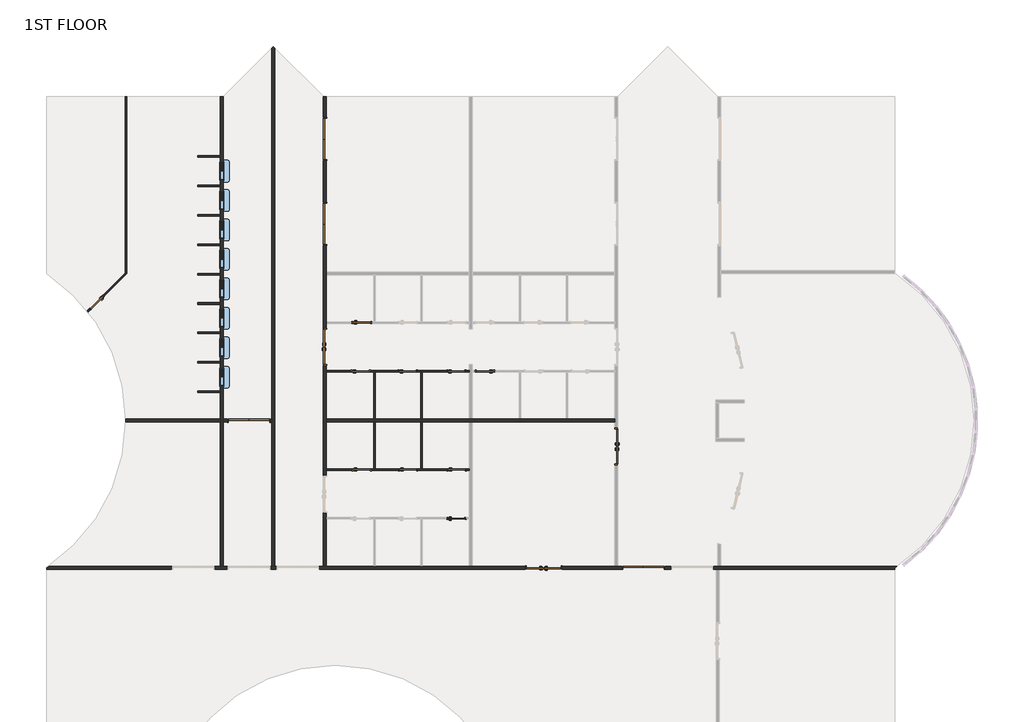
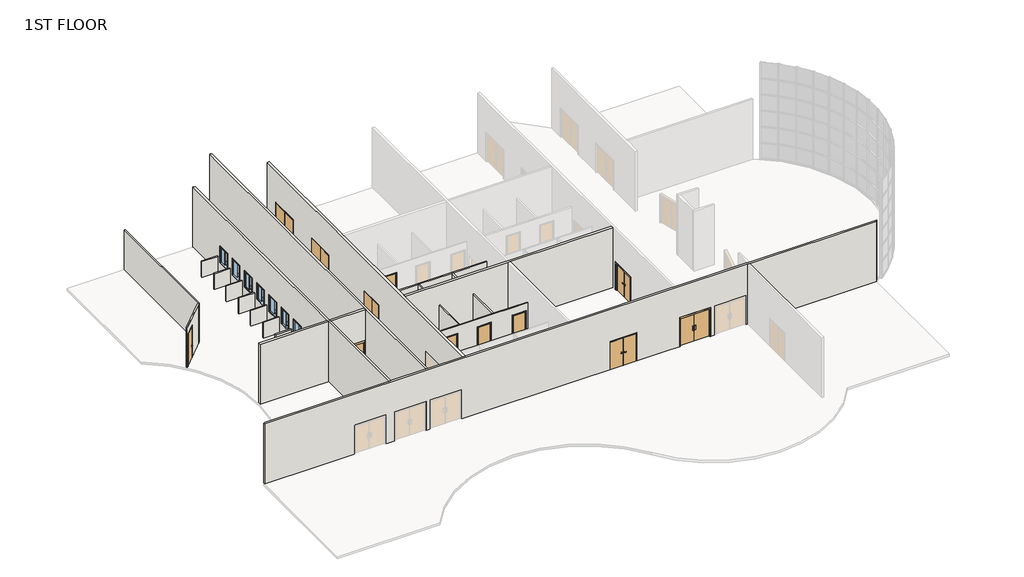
# One storey, part 2 of 17: 23 walls, 17 doors, 8 windows.
"""IFC4 building model written with IfcOpenShell, lengths in millimetres."""

from ifc_helpers import new_model, si_unit, point, frame, frame_2d, origin, place, context, project, spatial, polyline, circle_curve, trimmed, segment, composite_curve, outline, extrude, faceted_brep, transform, mapped, element, save
from ifc_brep_helpers import plane_surface, cylinder_surface, revolved_surface, advanced_brep
from components import door_2f250f70, door_b3a27a16, door_979b1b8c, door_f8b587be, pass_thru_4x3_19d81059

model = new_model("IFC4")

# Units and contexts
model_context = context("Model", 3, world=origin())
ifc_project = project(units=[si_unit("LENGTHUNIT", "METRE", prefix="MILLI")], contexts=[model_context])

# Site, building, storey
site = spatial("IfcSite", under=ifc_project)
building = spatial("IfcBuilding", under=site)
storey = spatial("IfcBuildingStorey", under=building, Name="1ST FLOOR", Elevation=4572.0)

# Doors
placement = place(None, origin())
door_shape = door_2f250f70(model_context)
element("IfcDoor", 1, ObjectType="Door-Passage-Double-Flush : 72\" x 82\"", at=placement, inside=storey, context=model_context, shape_type="MappedRepresentation", body=[
    mapped(door_shape, transform((14556.3400257, 20729.575, 4572.0), x_axis=(0.0, 1.0, 0.0), y_axis=(-1.0, 0.0, 0.0), z_axis=(0.0, 0.0, 1.0))),
])
element("IfcDoor", 2, ObjectType="Door-Passage-Double-Flush : 72\" x 82\"", at=placement, inside=storey, context=model_context, shape_type="MappedRepresentation", body=[
    mapped(door_shape, transform((25872.8337757, 9305.925, 4572.0), x_axis=(-1.0, 0.0, 0.0), y_axis=(0.0, -1.0, 0.0), z_axis=(0.0, 0.0, 1.0))),
])
element("IfcDoor", 3, ObjectType="Door-Passage-Double-Flush : 72\" x 82\"", at=placement, inside=storey, context=model_context, shape_type="MappedRepresentation", body=[
    mapped(door_shape, transform((29628.0650257, 15571.7875, 4572.0), x_axis=(0.0, -1.0, 0.0), y_axis=(1.0, 0.0, 0.0), z_axis=(0.0, 0.0, 1.0))),
])
door_2_shape = door_b3a27a16(model_context)
element("IfcDoor", 4, ObjectType="Door-Passage-Double-Flush-Dbl_Acting : 84\" x 84\"", at=placement, inside=storey, context=model_context, shape_type="MappedRepresentation", body=[
    mapped(door_2_shape, transform((31033.0025257, 9293.225, 4572.0), x_axis=(1.0, 0.0, 0.0), y_axis=(0.0, 1.0, 0.0), z_axis=(0.0, 0.0, 1.0))),
])
element("IfcDoor", 5, ObjectType="Door-Passage-Double-Flush-Dbl_Acting : 84\" x 84\"", at=placement, inside=storey, context=model_context, shape_type="MappedRepresentation", body=[
    mapped(door_2_shape, transform((14556.3400257, 31499.175, 4572.0), x_axis=(0.0, 1.0, 0.0), y_axis=(-1.0, 0.0, 0.0), z_axis=(0.0, 0.0, 1.0))),
])
element("IfcDoor", 6, ObjectType="Door-Passage-Double-Flush-Dbl_Acting : 84\" x 84\"", at=placement, inside=storey, context=model_context, shape_type="MappedRepresentation", body=[
    mapped(door_2_shape, transform((14556.3400257, 27101.8, 4572.0), x_axis=(0.0, 1.0, 0.0), y_axis=(-1.0, 0.0, 0.0), z_axis=(0.0, 0.0, 1.0))),
])
element("IfcDoor", 7, ObjectType="Door-Passage-Double-Flush-Dbl_Acting : 84\" x 84\"", at=placement, inside=storey, context=model_context, shape_type="MappedRepresentation", body=[
    mapped(door_2_shape, transform((10620.375, 16913.225, 4572.0), x_axis=(1.0, 0.0, 0.0), y_axis=(0.0, 1.0, 0.0), z_axis=(0.0, 0.0, 1.0))),
])
door_3_shape = door_979b1b8c(model_context)
element("IfcDoor", 8, ObjectType="Door-Passage-Single-Flush : 36\" x 96\"", at=placement, inside=storey, context=model_context, shape_type="MappedRepresentation", body=[
    mapped(door_3_shape, transform((16456.5775257, 14357.35, 4572.0), x_axis=(1.0, 0.0, 0.0), y_axis=(0.0, 1.0, 0.0), z_axis=(0.0, 0.0, 1.0))),
])
element("IfcDoor", 9, ObjectType="Door-Passage-Single-Flush : 36\" x 96\"", at=placement, inside=storey, context=model_context, shape_type="MappedRepresentation", body=[
    mapped(door_3_shape, transform((18855.2900257, 14357.35, 4572.0), x_axis=(1.0, 0.0, 0.0), y_axis=(0.0, 1.0, 0.0), z_axis=(0.0, 0.0, 1.0))),
])
element("IfcDoor", 10, ObjectType="Door-Passage-Single-Flush : 36\" x 96\"", at=placement, inside=storey, context=model_context, shape_type="MappedRepresentation", body=[
    mapped(door_3_shape, transform((21373.0650257, 14357.35, 4572.0), x_axis=(1.0, 0.0, 0.0), y_axis=(0.0, 1.0, 0.0), z_axis=(0.0, 0.0, 1.0))),
])
element("IfcDoor", 11, ObjectType="Door-Passage-Single-Flush : 36\" x 96\"", at=placement, inside=storey, context=model_context, shape_type="MappedRepresentation", body=[
    mapped(door_3_shape, transform((16456.5775257, 21977.35, 4572.0), x_axis=(1.0, 0.0, 0.0), y_axis=(0.0, 1.0, 0.0), z_axis=(0.0, 0.0, 1.0))),
])
element("IfcDoor", 12, ObjectType="Door-Passage-Single-Flush : 36\" x 96\"", at=placement, inside=storey, context=model_context, shape_type="MappedRepresentation", body=[
    mapped(door_3_shape, transform((22830.3900257, 19481.8, 4572.0), x_axis=(-1.0, 0.0, 0.0), y_axis=(0.0, -1.0, 0.0), z_axis=(0.0, 0.0, 1.0))),
])
element("IfcDoor", 13, ObjectType="Door-Passage-Single-Flush : 36\" x 96\"", at=placement, inside=storey, context=model_context, shape_type="MappedRepresentation", body=[
    mapped(door_3_shape, transform((2731.3607977, 23031.2061406, 4572.0), x_axis=(-0.7071067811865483, -0.7071067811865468, 0.0), y_axis=(0.7071067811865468, -0.7071067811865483, 0.0), z_axis=(0.0, 0.0, 1.0))),
])
door_4_shape = door_f8b587be(model_context)
element("IfcDoor", 14, ObjectType="Door-Passage-Single-Flush : 36\" x 96\"", at=placement, inside=storey, context=model_context, shape_type="MappedRepresentation", body=[
    mapped(door_4_shape, transform((21354.0150257, 11861.8, 4572.0), x_axis=(1.0, 0.0, 0.0), y_axis=(0.0, 1.0, 0.0), z_axis=(0.0, 0.0, 1.0))),
])
element("IfcDoor", 15, ObjectType="Door-Passage-Single-Flush : 36\" x 96\"", at=placement, inside=storey, context=model_context, shape_type="MappedRepresentation", body=[
    mapped(door_4_shape, transform((16405.7775257, 19481.8, 4572.0), x_axis=(1.0, 0.0, 0.0), y_axis=(0.0, 1.0, 0.0), z_axis=(0.0, 0.0, 1.0))),
])
element("IfcDoor", 16, ObjectType="Door-Passage-Single-Flush : 36\" x 96\"", at=placement, inside=storey, context=model_context, shape_type="MappedRepresentation", body=[
    mapped(door_4_shape, transform((18836.2400257, 19481.8, 4572.0), x_axis=(1.0, 0.0, 0.0), y_axis=(0.0, 1.0, 0.0), z_axis=(0.0, 0.0, 1.0))),
])
element("IfcDoor", 17, ObjectType="Door-Passage-Single-Flush : 36\" x 96\"", at=placement, inside=storey, context=model_context, shape_type="MappedRepresentation", body=[
    mapped(door_4_shape, transform((21354.0150257, 19481.8, 4572.0), x_axis=(1.0, 0.0, 0.0), y_axis=(0.0, 1.0, 0.0), z_axis=(0.0, 0.0, 1.0))),
])

# Walls
element("IfcWall", 18, ObjectType="SYR_INT_ONE_HOUR", at=placement, inside=storey, context=model_context, shape_type="SweptSolid", body=[
    extrude(outline(polyline([(17066.1775257, 14403.3875), (17066.1775257, 16841.7875), (17145.5525257, 16841.7875), (17145.5525257, 14403.3875), (17066.1775257, 14403.3875)])), frame((0.0, 0.0, 4572.0), z_axis=(0.0, 0.0, 1.0), x_axis=(1.0, 0.0, 0.0)), (0.0, 0.0, 1.0), 3048.0),
])
element("IfcWall", 19, ObjectType="SYR_INT_ONE_HOUR", at=placement, inside=storey, context=model_context, shape_type="Brep", body=[
    faceted_brep([(14627.7775257, 14403.3875, 7620.0), (17066.1775257, 14403.3875, 7620.0), (17145.5525257, 14403.3875, 7620.0), (19496.6400257, 14403.3875, 7620.0), (19576.0150257, 14403.3875, 7620.0), (22014.4150257, 14403.3875, 7620.0), (22014.4150257, 14403.3875, 4572.0), (21862.0150257, 14403.3875, 4572.0), (21862.0150257, 14403.3875, 7042.15), (20884.1150257, 14403.3875, 7042.15), (20884.1150257, 14403.3875, 4572.0), (19576.0150257, 14403.3875, 4572.0), (19496.6400257, 14403.3875, 4572.0), (19344.2400257, 14403.3875, 4572.0), (19344.2400257, 14403.3875, 7042.15), (18366.3400257, 14403.3875, 7042.15), (18366.3400257, 14403.3875, 4572.0), (17145.5525257, 14403.3875, 4572.0), (17066.1775257, 14403.3875, 4572.0), (16945.5275257, 14403.3875, 4572.0), (16945.5275257, 14403.3875, 7042.15), (15967.6275257, 14403.3875, 7042.15), (15967.6275257, 14403.3875, 4572.0), (14627.7775257, 14403.3875, 4572.0), (22014.4150257, 14324.0125, 7620.0), (14627.7775257, 14324.0125, 7620.0), (14627.7775257, 14324.0125, 4572.0), (15967.6275257, 14324.0125, 4572.0), (15967.6275257, 14324.0125, 7042.15), (16945.5275257, 14324.0125, 7042.15), (16945.5275257, 14324.0125, 4572.0), (18366.3400257, 14324.0125, 4572.0), (18366.3400257, 14324.0125, 7042.15), (19344.2400257, 14324.0125, 7042.15), (19344.2400257, 14324.0125, 4572.0), (20884.1150257, 14324.0125, 4572.0), (20884.1150257, 14324.0125, 7042.15), (21862.0150257, 14324.0125, 7042.15), (21862.0150257, 14324.0125, 4572.0), (22014.4150257, 14324.0125, 4572.0)], [[[0, 1, 2, 3, 4, 5, 6, 7, 8, 9, 10, 11, 12, 13, 14, 15, 16, 17, 18, 19, 20, 21, 22, 23]], [[24, 25, 26, 27, 28, 29, 30, 31, 32, 33, 34, 35, 36, 37, 38, 39]], [[6, 39, 38, 7]], [[26, 23, 22, 27]], [[30, 19, 18, 17, 16, 31]], [[34, 13, 12, 11, 10, 35]], [[5, 4, 3, 2, 1, 0, 25, 24]], [[0, 23, 26, 25]], [[6, 5, 24, 39]], [[29, 20, 19, 30]], [[20, 29, 28, 21]], [[21, 28, 27, 22]], [[14, 13, 34, 33]], [[15, 14, 33, 32]], [[16, 15, 32, 31]], [[37, 8, 7, 38]], [[8, 37, 36, 9]], [[9, 36, 35, 10]]]),
])
element("IfcWall", 20, ObjectType="SYR_INT_ONE_HOUR", at=placement, inside=storey, context=model_context, shape_type="SweptSolid", body=[
    extrude(outline(polyline([(19576.0150257, 16841.7875), (19576.0150257, 14403.3875), (19496.6400257, 14403.3875), (19496.6400257, 16841.7875), (19576.0150257, 16841.7875)])), frame((0.0, 0.0, 4572.0), z_axis=(0.0, 0.0, 1.0), x_axis=(1.0, 0.0, 0.0)), (0.0, 0.0, 1.0), 3048.0),
])
element("IfcWall", 21, ObjectType="SYR_INT_ONE_HOUR", at=placement, inside=storey, context=model_context, shape_type="SweptSolid", body=[
    extrude(outline(polyline([(19576.0150257, 19435.7625), (19576.0150257, 16997.3625), (19496.6400257, 16997.3625), (19496.6400257, 19435.7625), (19576.0150257, 19435.7625)])), frame((0.0, 0.0, 4572.0), z_axis=(0.0, 0.0, 1.0), x_axis=(1.0, 0.0, 0.0)), (0.0, 0.0, 1.0), 3048.0),
])
element("IfcWall", 22, ObjectType="SYR_INT_ONE_HOUR", at=placement, inside=storey, context=model_context, shape_type="Brep", body=[
    faceted_brep([(14627.7775257, 19515.1375, 7620.0), (22014.4150257, 19515.1375, 7620.0), (22014.4150257, 19515.1375, 4572.0), (21842.9650257, 19515.1375, 4572.0), (21842.9650257, 19515.1375, 7042.15), (20865.0650257, 19515.1375, 7042.15), (20865.0650257, 19515.1375, 4572.0), (19325.1900257, 19515.1375, 4572.0), (19325.1900257, 19515.1375, 7042.15), (18347.2900257, 19515.1375, 7042.15), (18347.2900257, 19515.1375, 4572.0), (16894.7275257, 19515.1375, 4572.0), (16894.7275257, 19515.1375, 7042.15), (15916.8275257, 19515.1375, 7042.15), (15916.8275257, 19515.1375, 4572.0), (14627.7775257, 19515.1375, 4572.0), (22014.4150257, 19435.7625, 7620.0), (19576.0150257, 19435.7625, 7620.0), (19496.6400257, 19435.7625, 7620.0), (17145.5525257, 19435.7625, 7620.0), (17066.1775257, 19435.7625, 7620.0), (14627.7775257, 19435.7625, 7620.0), (14627.7775257, 19435.7625, 4572.0), (15916.8275257, 19435.7625, 4572.0), (15916.8275257, 19435.7625, 7042.15), (16894.7275257, 19435.7625, 7042.15), (16894.7275257, 19435.7625, 4572.0), (17066.1775257, 19435.7625, 4572.0), (17145.5525257, 19435.7625, 4572.0), (18347.2900257, 19435.7625, 4572.0), (18347.2900257, 19435.7625, 7042.15), (19325.1900257, 19435.7625, 7042.15), (19325.1900257, 19435.7625, 4572.0), (19496.6400257, 19435.7625, 4572.0), (19576.0150257, 19435.7625, 4572.0), (20865.0650257, 19435.7625, 4572.0), (20865.0650257, 19435.7625, 7042.15), (21842.9650257, 19435.7625, 7042.15), (21842.9650257, 19435.7625, 4572.0), (22014.4150257, 19435.7625, 4572.0)], [[[0, 1, 2, 3, 4, 5, 6, 7, 8, 9, 10, 11, 12, 13, 14, 15]], [[16, 17, 18, 19, 20, 21, 22, 23, 24, 25, 26, 27, 28, 29, 30, 31, 32, 33, 34, 35, 36, 37, 38, 39]], [[15, 14, 23, 22]], [[26, 11, 10, 29, 28, 27]], [[32, 7, 6, 35, 34, 33]], [[2, 39, 38, 3]], [[1, 0, 21, 20, 19, 18, 17, 16]], [[25, 12, 11, 26]], [[12, 25, 24, 13]], [[13, 24, 23, 14]], [[31, 8, 7, 32]], [[8, 31, 30, 9]], [[9, 30, 29, 10]], [[37, 4, 3, 38]], [[4, 37, 36, 5]], [[5, 36, 35, 6]], [[0, 15, 22, 21]], [[2, 1, 16, 39]]]),
])
element("IfcWall", 23, ObjectType="SYR_INT_ONE_HOUR", at=placement, inside=storey, context=model_context, shape_type="SweptSolid", body=[
    extrude(outline(polyline([(17066.1775257, 16997.3625), (17066.1775257, 19435.7625), (17145.5525257, 19435.7625), (17145.5525257, 16997.3625), (17066.1775257, 16997.3625)])), frame((0.0, 0.0, 4572.0), z_axis=(0.0, 0.0, 1.0), x_axis=(1.0, 0.0, 0.0)), (0.0, 0.0, 1.0), 3048.0),
])
element("IfcWall", 24, ObjectType="SYR_INT_ONE_HOUR", at=placement, inside=storey, context=model_context, shape_type="SweptSolid", body=[
    extrude(outline(polyline([(7979.2710938, 18443.575), (9144.0, 18443.575), (9144.0, 18364.2), (7979.2710938, 18364.2), (7979.2710938, 18443.575)])), frame((0.0, 0.0, 4572.0), z_axis=(0.0, 0.0, 1.0), x_axis=(1.0, 0.0, 0.0)), (0.0, 0.0, 1.0), 1219.2),
])
element("IfcWall", 25, ObjectType="SYR_INT_ONE_HOUR", at=placement, inside=storey, context=model_context, shape_type="SweptSolid", body=[
    extrude(outline(polyline([(7979.2710938, 19967.575), (9144.0, 19967.575), (9144.0, 19888.2), (7979.2710938, 19888.2), (7979.2710938, 19967.575)])), frame((0.0, 0.0, 4572.0), z_axis=(0.0, 0.0, 1.0), x_axis=(1.0, 0.0, 0.0)), (0.0, 0.0, 1.0), 1219.2),
])
element("IfcWall", 26, ObjectType="SYR_INT_ONE_HOUR", at=placement, inside=storey, context=model_context, shape_type="SweptSolid", body=[
    extrude(outline(polyline([(7979.2710938, 21491.575), (9144.0, 21491.575), (9144.0, 21412.2), (7979.2710938, 21412.2), (7979.2710938, 21491.575)])), frame((0.0, 0.0, 4572.0), z_axis=(0.0, 0.0, 1.0), x_axis=(1.0, 0.0, 0.0)), (0.0, 0.0, 1.0), 1219.2),
])
element("IfcWall", 27, ObjectType="SYR_INT_ONE_HOUR", at=placement, inside=storey, context=model_context, shape_type="SweptSolid", body=[
    extrude(outline(polyline([(7979.2710938, 23015.575), (9144.0, 23015.575), (9144.0, 22936.2), (7979.2710938, 22936.2), (7979.2710938, 23015.575)])), frame((0.0, 0.0, 4572.0), z_axis=(0.0, 0.0, 1.0), x_axis=(1.0, 0.0, 0.0)), (0.0, 0.0, 1.0), 1219.2),
])
element("IfcWall", 28, ObjectType="SYR_INT_ONE_HOUR", at=placement, inside=storey, context=model_context, shape_type="SweptSolid", body=[
    extrude(outline(polyline([(7979.2710938, 24539.575), (9144.0, 24539.575), (9144.0, 24460.2), (7979.2710938, 24460.2), (7979.2710938, 24539.575)])), frame((0.0, 0.0, 4572.0), z_axis=(0.0, 0.0, 1.0), x_axis=(1.0, 0.0, 0.0)), (0.0, 0.0, 1.0), 1219.2),
])
element("IfcWall", 29, ObjectType="SYR_INT_ONE_HOUR", at=placement, inside=storey, context=model_context, shape_type="SweptSolid", body=[
    extrude(outline(polyline([(7979.2710938, 26063.575), (9144.0, 26063.575), (9144.0, 25984.2), (7979.2710938, 25984.2), (7979.2710938, 26063.575)])), frame((0.0, 0.0, 4572.0), z_axis=(0.0, 0.0, 1.0), x_axis=(1.0, 0.0, 0.0)), (0.0, 0.0, 1.0), 1219.2),
])
element("IfcWall", 30, ObjectType="SYR_INT_ONE_HOUR", at=placement, inside=storey, context=model_context, shape_type="SweptSolid", body=[
    extrude(outline(polyline([(7979.2710938, 27587.575), (9144.0, 27587.575), (9144.0, 27508.2), (7979.2710938, 27508.2), (7979.2710938, 27587.575)])), frame((0.0, 0.0, 4572.0), z_axis=(0.0, 0.0, 1.0), x_axis=(1.0, 0.0, 0.0)), (0.0, 0.0, 1.0), 1219.2),
])
element("IfcWall", 31, ObjectType="SYR_INT_ONE_HOUR", at=placement, inside=storey, context=model_context, shape_type="SweptSolid", body=[
    extrude(outline(polyline([(7979.2710938, 29111.575), (9144.0, 29111.575), (9144.0, 29032.2), (7979.2710938, 29032.2), (7979.2710938, 29111.575)])), frame((0.0, 0.0, 4572.0), z_axis=(0.0, 0.0, 1.0), x_axis=(1.0, 0.0, 0.0)), (0.0, 0.0, 1.0), 1219.2),
])
element("IfcWall", 32, ObjectType="SYR_INT_ONE_HOUR", at=placement, inside=storey, context=model_context, shape_type="SweptSolid", body=[
    extrude(outline(polyline([(7979.2710938, 30635.575), (9144.0, 30635.575), (9144.0, 30556.2), (7979.2710938, 30556.2), (7979.2710938, 30635.575)])), frame((0.0, 0.0, 4572.0), z_axis=(0.0, 0.0, 1.0), x_axis=(1.0, 0.0, 0.0)), (0.0, 0.0, 1.0), 1219.2),
])
element("IfcWall", 33, ObjectType="SYR_INT_ONE_HOUR", at=placement, inside=storey, context=model_context, shape_type="Brep", body=[
    faceted_brep([(4209.0224132, 33683.575, 4572.0), (4209.0224132, 24556.0141008, 4572.0), (4209.0224132, 24443.7608992, 4572.0), (4209.0224132, 24443.7608992, 7620.0), (4209.0224132, 24556.0141008, 7620.0), (4209.0224132, 33683.575, 7620.0), (4288.3974132, 33683.575, 4572.0), (4288.3974132, 33683.575, 7620.0), (4288.3974132, 24523.1358992, 7620.0), (4288.3974132, 24523.1358992, 4572.0)], [[[0, 1, 2, 3, 4, 5]], [[6, 7, 8, 9]], [[2, 1, 0, 6, 9]], [[5, 4, 3, 8, 7]], [[0, 5, 7, 6]], [[3, 2, 9, 8]]]),
])
element("IfcWall", 34, ObjectType="SYR_INT_ONE_HOUR", at=placement, inside=storey, context=model_context, shape_type="AdvancedBrep", body=[
    advanced_brep(
    [(2260.5955581, 22607.5872456, 7620.0), (4209.0224132, 24556.0141008, 7620.0), (4209.0224132, 24556.0141008, 4572.0), (3053.527486, 23400.5191735, 4572.0), (3053.527486, 23400.5191735, 7042.15), (2362.0477647, 22709.0394522, 7042.15), (2362.0477647, 22709.0394522, 4572.0), (2260.5955581, 22607.5872456, 4572.0), (4209.0224132, 24443.7608992, 7620.0), (2310.04482, 22544.783306, 7620.0), (2310.04482, 22544.783306, 4572.0), (2418.1743655, 22652.9128515, 4572.0), (2418.1743655, 22652.9128515, 7042.15), (3109.6540868, 23344.3925728, 7042.15), (3109.6540868, 23344.3925728, 4572.0), (4209.0224132, 24443.7608992, 4572.0)],
    [
        (0, 1),
        (1, 2),
        (2, 3),
        (3, 4),
        (4, 5),
        (5, 6),
        (6, 7),
        (7, 0),
        (8, 9),
        (9, 10),
        (10, 11),
        (11, 12),
        (12, 13),
        (13, 14),
        (14, 15),
        (15, 8),
        (10, 7, circle_curve(frame((-4898.9611805, 16919.575, 4572.0), z_axis=(0.0, 0.0, 1.0), x_axis=(1.0, 0.0, 0.0)), 9144.0)),
        (6, 11),
        (2, 15),
        (14, 3),
        (0, 9, circle_curve(frame((-4898.9611805, 16919.575, 7620.0), z_axis=(0.0, 0.0, -1.0), x_axis=(1.0, 0.0, 0.0)), 9144.0)),
        (8, 1),
        (5, 12),
        (4, 13),
    ],
    [
        plane_surface(frame((4220.6466129, 24567.6383004, 4572.0), z_axis=(-0.7071067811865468, 0.7071067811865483, 0.0), x_axis=(-0.7071067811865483, -0.7071067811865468, 0.0))),
        plane_surface(frame((4276.7732136, 24511.5116996, 4572.0), z_axis=(0.7071067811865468, -0.7071067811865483, 0.0), x_axis=(0.7071067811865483, 0.7071067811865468, 0.0))),
        plane_surface(frame((4220.6466129, 24567.6383004, 4572.0), z_axis=(0.0, 0.0, -1.0), x_axis=(0.7071067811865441, -0.7071067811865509, 0.0))),
        plane_surface(frame((2146.5216178, 22493.5133053, 7620.0), z_axis=(0.0, 0.0, 1.0000000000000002), x_axis=(0.7071067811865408, -0.7071067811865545, 0.0))),
        plane_surface(frame((4209.0224132, 33778.5769531, 4572.0), z_axis=(1.0, 0.0, 0.0), x_axis=(0.0, -1.0, 0.0))),
        revolved_surface(polyline([(4245.0388195, 16919.575, 7620.0), (4245.0388195, 16919.575, 4572.0)]), (-4898.9611805, 16919.575, 0.0), (0.0, 0.0, 1.0)),
        plane_surface(frame((1284.4170302, 23786.6701867, 4572.0), z_axis=(0.7071067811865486, 0.7071067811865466, 0.0), x_axis=(0.7071067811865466, -0.7071067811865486, 0.0))),
        plane_surface(frame((1284.4170302, 23786.6701867, 7042.15), z_axis=(0.0, 0.0, -1.0), x_axis=(0.7071067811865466, -0.7071067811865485, 0.0))),
        plane_surface(frame((1975.8967515, 24478.1499081, 7042.15), z_axis=(-0.7071067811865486, -0.7071067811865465, 0.0), x_axis=(0.7071067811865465, -0.7071067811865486, 0.0))),
    ],
    [
        (0, [[1, 2, 3, 4, 5, 6, 7, 8]]),
        (1, [[9, 10, 11, 12, 13, 14, 15, 16]]),
        (2, [[17, -7, 18, -11]]),
        (2, [[19, -15, 20, -3]]),
        (3, [[-1, 21, -9, 22]]),
        (4, [[-2, -22, -16, -19]]),
        (5, [[-8, -17, -10, -21]]),
        (6, [[23, -12, -18, -6]]),
        (7, [[-23, -5, 24, -13]]),
        (8, [[-24, -4, -20, -14]]),
    ],
),
])
element("IfcWall", 35, ObjectType="SYR_INT_TWO_HOUR", at=placement, inside=storey, context=model_context, shape_type="AdvancedBrep", body=[
    advanced_brep(
    [(270.9292057, 9377.3625, 9144.0), (9144.0, 9377.3625, 9144.0), (9299.575, 9377.3625, 9144.0), (11808.1012629, 9377.3625, 9144.0), (11963.6762629, 9377.3625, 9144.0), (14472.2025257, 9377.3625, 9144.0), (14627.7775257, 9377.3625, 9144.0), (22014.4150257, 9377.3625, 9144.0), (22169.9900257, 9377.3625, 9144.0), (29556.6275257, 9377.3625, 9144.0), (29712.2025257, 9377.3625, 9144.0), (34884.8300515, 9377.3625, 9144.0), (35040.4050515, 9377.3625, 9144.0), (44144.1842571, 9377.3625, 9144.0), (44144.1842571, 9377.3625, 4572.0), (35040.4050515, 9377.3625, 4572.0), (34884.8300515, 9377.3625, 4572.0), (34681.6300515, 9377.3625, 4572.0), (34681.6300515, 9377.3625, 6807.2), (32446.4300515, 9377.3625, 6807.2), (32446.4300515, 9377.3625, 4572.0), (32150.6025257, 9377.3625, 4572.0), (32150.6025257, 9377.3625, 6807.2), (29915.4025257, 9377.3625, 6807.2), (29915.4025257, 9377.3625, 4572.0), (29712.2025257, 9377.3625, 4572.0), (29556.6275257, 9377.3625, 4572.0), (26838.0337757, 9377.3625, 4572.0), (26838.0337757, 9377.3625, 6756.4), (24907.6337757, 9377.3625, 6756.4), (24907.6337757, 9377.3625, 4572.0), (22169.9900257, 9377.3625, 4572.0), (22014.4150257, 9377.3625, 4572.0), (19576.0150257, 9377.3625, 4572.0), (19496.6400257, 9377.3625, 4572.0), (17145.5525257, 9377.3625, 4572.0), (17066.1775257, 9377.3625, 4572.0), (14627.7775257, 9377.3625, 4572.0), (14472.2025257, 9377.3625, 4572.0), (14269.0025257, 9377.3625, 4572.0), (14269.0025257, 9377.3625, 6807.2), (12033.8025257, 9377.3625, 6807.2), (12033.8025257, 9377.3625, 4572.0), (11963.6762629, 9377.3625, 4572.0), (11808.1012629, 9377.3625, 4572.0), (11737.975, 9377.3625, 4572.0), (11737.975, 9377.3625, 6807.2), (9502.775, 9377.3625, 6807.2), (9502.775, 9377.3625, 4572.0), (9299.575, 9377.3625, 4572.0), (9144.0, 9377.3625, 4572.0), (8848.1724743, 9377.3625, 4572.0), (8848.1724743, 9377.3625, 6807.2), (6612.9724743, 9377.3625, 6807.2), (6612.9724743, 9377.3625, 4572.0), (270.9292057, 9377.3625, 4572.0), (155.575, 9221.7875, 9144.0), (155.575, 9221.7875, 4572.0), (6612.9724743, 9221.7875, 4572.0), (6612.9724743, 9221.7875, 6807.2), (8848.1724743, 9221.7875, 6807.2), (8848.1724743, 9221.7875, 4572.0), (9502.775, 9221.7875, 4572.0), (9502.775, 9221.7875, 6807.2), (11737.975, 9221.7875, 6807.2), (11737.975, 9221.7875, 4572.0), (12033.8025257, 9221.7875, 4572.0), (12033.8025257, 9221.7875, 6807.2), (14269.0025257, 9221.7875, 6807.2), (14269.0025257, 9221.7875, 4572.0), (24907.6337757, 9221.7875, 4572.0), (24907.6337757, 9221.7875, 6756.4), (26838.0337757, 9221.7875, 6756.4), (26838.0337757, 9221.7875, 4572.0), (29915.4025257, 9221.7875, 4572.0), (29915.4025257, 9221.7875, 6807.2), (32150.6025257, 9221.7875, 6807.2), (32150.6025257, 9221.7875, 4572.0), (32446.4300515, 9221.7875, 4572.0), (32446.4300515, 9221.7875, 6807.2), (34681.6300515, 9221.7875, 6807.2), (34681.6300515, 9221.7875, 4572.0), (34803.3714577, 9221.7875, 4572.0), (34958.9464577, 9221.7875, 4572.0), (44028.8300515, 9221.7875, 4572.0), (44028.8300515, 9221.7875, 9144.0), (34958.9464577, 9221.7875, 9144.0), (34803.3714577, 9221.7875, 9144.0), (155.575, 9299.575, 4572.0), (44028.8300515, 9299.575, 4572.0), (155.575, 9299.575, 9144.0), (44028.8300515, 9299.575, 9144.0)],
    [
        (0, 1),
        (1, 2),
        (2, 3),
        (3, 4),
        (4, 5),
        (5, 6),
        (6, 7),
        (7, 8),
        (8, 9),
        (9, 10),
        (10, 11),
        (11, 12),
        (12, 13),
        (13, 14),
        (14, 15),
        (15, 16),
        (16, 17),
        (17, 18),
        (18, 19),
        (19, 20),
        (20, 21),
        (21, 22),
        (22, 23),
        (23, 24),
        (24, 25),
        (25, 26),
        (26, 27),
        (27, 28),
        (28, 29),
        (29, 30),
        (30, 31),
        (31, 32),
        (32, 33),
        (33, 34),
        (34, 35),
        (35, 36),
        (36, 37),
        (37, 38),
        (38, 39),
        (39, 40),
        (40, 41),
        (41, 42),
        (42, 43),
        (43, 44),
        (44, 45),
        (45, 46),
        (46, 47),
        (47, 48),
        (48, 49),
        (49, 50),
        (50, 51),
        (51, 52),
        (52, 53),
        (53, 54),
        (54, 55),
        (55, 0),
        (56, 57),
        (57, 58),
        (58, 59),
        (59, 60),
        (60, 61),
        (61, 62),
        (62, 63),
        (63, 64),
        (64, 65),
        (65, 66),
        (66, 67),
        (67, 68),
        (68, 69),
        (69, 70),
        (70, 71),
        (71, 72),
        (72, 73),
        (73, 74),
        (74, 75),
        (75, 76),
        (76, 77),
        (77, 78),
        (78, 79),
        (79, 80),
        (80, 81),
        (81, 82),
        (82, 83),
        (83, 84),
        (84, 85),
        (85, 86),
        (86, 87),
        (87, 56),
        (57, 88),
        (88, 55, circle_curve(frame((-4898.9611805, 16919.575, 4572.0), z_axis=(0.0, 0.0, 1.0), x_axis=(0.8333333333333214, 0.5527707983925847, 0.0)), 9144.0)),
        (54, 58),
        (14, 89, circle_curve(frame((38974.293871, 16919.575, 4572.0), z_axis=(0.0, 0.0, -1.0), x_axis=(0.8333333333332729, 0.5527707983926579, 0.0)), 9144.0)),
        (89, 84),
        (81, 17),
        (20, 78),
        (77, 21),
        (24, 74),
        (73, 27),
        (42, 66),
        (65, 45),
        (69, 39),
        (30, 70),
        (48, 62),
        (61, 51),
        (0, 90, circle_curve(frame((-4898.9611805, 16919.575, 9144.0), z_axis=(0.0, 0.0, -1.0), x_axis=(0.8333333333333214, 0.5527707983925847, 0.0)), 9144.0)),
        (90, 56),
        (85, 91),
        (91, 13, circle_curve(frame((38974.293871, 16919.575, 9144.0), z_axis=(0.0, 0.0, 1.0), x_axis=(0.8333333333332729, 0.5527707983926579, 0.0)), 9144.0)),
        (88, 90),
        (91, 89),
        (19, 79),
        (18, 80),
        (76, 22),
        (75, 23),
        (41, 67),
        (40, 68),
        (64, 46),
        (63, 47),
        (60, 52),
        (59, 53),
        (29, 71),
        (28, 72),
    ],
    [
        plane_surface(frame((44028.8300515, 9377.3625, 4572.0), z_axis=(0.0, 1.0, 0.0), x_axis=(-1.0, 0.0, 0.0))),
        plane_surface(frame((44028.8300515, 9221.7875, 4572.0), z_axis=(0.0, -1.0, 0.0), x_axis=(1.0, 0.0, 0.0))),
        plane_surface(frame((44305.118871, 9377.3625, 4572.0), z_axis=(0.0, 0.0, -1.0), x_axis=(0.0, -1.0, 0.0))),
        plane_surface(frame((0.0, 9377.3625, 9144.0), z_axis=(0.0, 0.0, 1.0), x_axis=(0.0, -1.0, 0.0))),
        revolved_surface(polyline([(2721.0388194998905, 21974.111180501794, 9144.0), (2721.0388194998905, 21974.111180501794, 4572.0)]), (-4898.9611805, 16919.575, 4343.4), (0.0, 0.0, 1.0)),
        plane_surface(frame((155.575, -12852.9844355, 4343.4), z_axis=(-1.0, 0.0, 0.0), x_axis=(0.0, -1.0, 0.0))),
        cylinder_surface(frame((38974.293871, 16919.575, 4343.4), z_axis=(0.0, 0.0, 1.0), x_axis=(0.8333333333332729, 0.5527707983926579, 0.0)), 9144.0),
        plane_surface(frame((44028.8300515, -12852.9844355, 4343.4), z_axis=(1.0, 0.0, 0.0), x_axis=(0.0, 1.0, 0.0))),
        plane_surface(frame((32446.4300515, 10745.7875, 4572.0), z_axis=(1.0, 0.0, 0.0), x_axis=(0.0, -1.0, 0.0))),
        plane_surface(frame((32446.4300515, 10745.7875, 6807.2), z_axis=(0.0, 0.0, -1.0), x_axis=(0.0, -1.0, 0.0))),
        plane_surface(frame((34681.6300515, 10745.7875, 6807.2), z_axis=(-1.0, 0.0, 0.0), x_axis=(0.0, -1.0, 0.0))),
        plane_surface(frame((32150.6025257, 7697.7875, 4572.0), z_axis=(-1.0, 0.0, 0.0), x_axis=(0.0, 1.0, 0.0))),
        plane_surface(frame((32150.6025257, 7697.7875, 6807.2), z_axis=(0.0, 0.0, -1.0), x_axis=(0.0, 1.0, 0.0))),
        plane_surface(frame((29915.4025257, 7697.7875, 6807.2), z_axis=(1.0, 0.0, 0.0), x_axis=(0.0, 1.0, 0.0))),
        plane_surface(frame((12033.8025257, 10745.7875, 4572.0), z_axis=(1.0, 0.0, 0.0), x_axis=(0.0, -1.0, 0.0))),
        plane_surface(frame((12033.8025257, 10745.7875, 6807.2), z_axis=(0.0, 0.0, -1.0), x_axis=(0.0, -1.0, 0.0))),
        plane_surface(frame((14269.0025257, 10745.7875, 6807.2), z_axis=(-1.0, 0.0, 0.0), x_axis=(0.0, -1.0, 0.0))),
        plane_surface(frame((11737.975, 7697.7875, 4572.0), z_axis=(-1.0, 0.0, 0.0), x_axis=(0.0, 1.0, 0.0))),
        plane_surface(frame((11737.975, 7697.7875, 6807.2), z_axis=(0.0, 0.0, -1.0), x_axis=(0.0, 1.0, 0.0))),
        plane_surface(frame((9502.775, 7697.7875, 6807.2), z_axis=(1.0, 0.0, 0.0), x_axis=(0.0, 1.0, 0.0))),
        plane_surface(frame((8848.1724743, 7697.7875, 4572.0), z_axis=(-1.0, 0.0, 0.0), x_axis=(0.0, 1.0, 0.0))),
        plane_surface(frame((8848.1724743, 7697.7875, 6807.2), z_axis=(0.0, 0.0, -1.0), x_axis=(0.0, 1.0, 0.0))),
        plane_surface(frame((6612.9724743, 7697.7875, 6807.2), z_axis=(1.0, 0.0, 0.0), x_axis=(0.0, 1.0, 0.0))),
        plane_surface(frame((24907.6337757, 10901.3625, 4572.0), z_axis=(1.0, 0.0, 0.0), x_axis=(0.0, -1.0, 0.0))),
        plane_surface(frame((24907.6337757, 10901.3625, 6756.4), z_axis=(0.0, 0.0, -1.0), x_axis=(0.0, -1.0, 0.0))),
        plane_surface(frame((26838.0337757, 10901.3625, 6756.4), z_axis=(-1.0, 0.0, 0.0), x_axis=(0.0, -1.0, 0.0))),
    ],
    [
        (0, [[1, 2, 3, 4, 5, 6, 7, 8, 9, 10, 11, 12, 13, 14, 15, 16, 17, 18, 19, 20, 21, 22, 23, 24, 25, 26, 27, 28, 29, 30, 31, 32, 33, 34, 35, 36, 37, 38, 39, 40, 41, 42, 43, 44, 45, 46, 47, 48, 49, 50, 51, 52, 53, 54, 55, 56]]),
        (1, [[57, 58, 59, 60, 61, 62, 63, 64, 65, 66, 67, 68, 69, 70, 71, 72, 73, 74, 75, 76, 77, 78, 79, 80, 81, 82, 83, 84, 85, 86, 87, 88]]),
        (2, [[89, 90, -55, 91, -58]]),
        (2, [[92, 93, -84, -83, -82, 94, -17, -16, -15]]),
        (2, [[95, -78, 96, -21]]),
        (2, [[97, -74, 98, -27, -26, -25]]),
        (2, [[99, -66, 100, -45, -44, -43]]),
        (2, [[101, -39, -38, -37, -36, -35, -34, -33, -32, -31, 102, -70]]),
        (2, [[103, -62, 104, -51, -50, -49]]),
        (3, [[-13, -12, -11, -10, -9, -8, -7, -6, -5, -4, -3, -2, -1, 105, 106, -88, -87, -86, 107, 108]]),
        (4, [[-56, -90, 109, -105]]),
        (5, [[-57, -106, -109, -89]]),
        (6, [[-14, -108, 110, -92]]),
        (7, [[-85, -93, -110, -107]]),
        (8, [[111, -79, -95, -20]]),
        (9, [[-111, -19, 112, -80]]),
        (10, [[-112, -18, -94, -81]]),
        (11, [[113, -22, -96, -77]]),
        (12, [[-113, -76, 114, -23]]),
        (13, [[-114, -75, -97, -24]]),
        (14, [[115, -67, -99, -42]]),
        (15, [[-115, -41, 116, -68]]),
        (16, [[-116, -40, -101, -69]]),
        (17, [[117, -46, -100, -65]]),
        (18, [[-117, -64, 118, -47]]),
        (19, [[-118, -63, -103, -48]]),
        (20, [[119, -52, -104, -61]]),
        (21, [[-119, -60, 120, -53]]),
        (22, [[-120, -59, -91, -54]]),
        (23, [[121, -71, -102, -30]]),
        (24, [[-121, -29, 122, -72]]),
        (25, [[-122, -28, -98, -73]]),
    ],
),
])
element("IfcWall", 36, ObjectType="SYR_INT_TWO_HOUR", at=placement, inside=storey, context=model_context, shape_type="Brep", body=[
    faceted_brep([(9144.0, 33683.575, 4572.0), (9144.0, 30635.575, 4572.0), (9144.0, 30556.2, 4572.0), (9144.0, 29111.575, 4572.0), (9144.0, 29032.2, 4572.0), (9144.0, 27587.575, 4572.0), (9144.0, 27508.2, 4572.0), (9144.0, 26063.575, 4572.0), (9144.0, 25984.2, 4572.0), (9144.0, 24539.575, 4572.0), (9144.0, 24460.2, 4572.0), (9144.0, 23015.575, 4572.0), (9144.0, 22936.2, 4572.0), (9144.0, 21491.575, 4572.0), (9144.0, 21412.2, 4572.0), (9144.0, 19967.575, 4572.0), (9144.0, 19888.2, 4572.0), (9144.0, 18443.575, 4572.0), (9144.0, 18364.2, 4572.0), (9144.0, 16997.3625, 4572.0), (9144.0, 16841.7875, 4572.0), (9144.0, 9377.3625, 4572.0), (9144.0, 9377.3625, 9144.0), (9144.0, 16841.7875, 9144.0), (9144.0, 16997.3625, 9144.0), (9144.0, 33683.575, 9144.0), (9144.0, 19623.0875, 6705.6), (9144.0, 18708.6875, 6705.6), (9144.0, 18708.6875, 5486.4), (9144.0, 19623.0875, 5486.4), (9144.0, 21147.0875, 6705.6), (9144.0, 20232.6875, 6705.6), (9144.0, 20232.6875, 5486.4), (9144.0, 21147.0875, 5486.4), (9144.0, 22671.0875, 6705.6), (9144.0, 21756.6875, 6705.6), (9144.0, 21756.6875, 5486.4), (9144.0, 22671.0875, 5486.4), (9144.0, 24195.0875, 6705.6), (9144.0, 23280.6875, 6705.6), (9144.0, 23280.6875, 5486.4), (9144.0, 24195.0875, 5486.4), (9144.0, 25719.0875, 6705.6), (9144.0, 24804.6875, 6705.6), (9144.0, 24804.6875, 5486.4), (9144.0, 25719.0875, 5486.4), (9144.0, 27243.0875, 6705.6), (9144.0, 26328.6875, 6705.6), (9144.0, 26328.6875, 5486.4), (9144.0, 27243.0875, 5486.4), (9144.0, 28767.0875, 6705.6), (9144.0, 27852.6875, 6705.6), (9144.0, 27852.6875, 5486.4), (9144.0, 28767.0875, 5486.4), (9144.0, 30291.0875, 6705.6), (9144.0, 29376.6875, 6705.6), (9144.0, 29376.6875, 5486.4), (9144.0, 30291.0875, 5486.4), (9299.575, 33683.575, 4572.0), (9299.575, 33683.575, 9144.0), (9299.575, 16997.3625, 9144.0), (9299.575, 16841.7875, 9144.0), (9299.575, 9377.3625, 9144.0), (9299.575, 9377.3625, 4572.0), (9299.575, 16841.7875, 4572.0), (9299.575, 16997.3625, 4572.0), (9299.575, 19623.0875, 6705.6), (9299.575, 19623.0875, 5486.4), (9299.575, 18708.6875, 5486.4), (9299.575, 18708.6875, 6705.6), (9299.575, 21147.0875, 6705.6), (9299.575, 21147.0875, 5486.4), (9299.575, 20232.6875, 5486.4), (9299.575, 20232.6875, 6705.6), (9299.575, 22671.0875, 6705.6), (9299.575, 22671.0875, 5486.4), (9299.575, 21756.6875, 5486.4), (9299.575, 21756.6875, 6705.6), (9299.575, 24195.0875, 6705.6), (9299.575, 24195.0875, 5486.4), (9299.575, 23280.6875, 5486.4), (9299.575, 23280.6875, 6705.6), (9299.575, 25719.0875, 6705.6), (9299.575, 25719.0875, 5486.4), (9299.575, 24804.6875, 5486.4), (9299.575, 24804.6875, 6705.6), (9299.575, 27243.0875, 6705.6), (9299.575, 27243.0875, 5486.4), (9299.575, 26328.6875, 5486.4), (9299.575, 26328.6875, 6705.6), (9299.575, 28767.0875, 6705.6), (9299.575, 28767.0875, 5486.4), (9299.575, 27852.6875, 5486.4), (9299.575, 27852.6875, 6705.6), (9299.575, 30291.0875, 6705.6), (9299.575, 30291.0875, 5486.4), (9299.575, 29376.6875, 5486.4), (9299.575, 29376.6875, 6705.6)], [[[0, 1, 2, 3, 4, 5, 6, 7, 8, 9, 10, 11, 12, 13, 14, 15, 16, 17, 18, 19, 20, 21, 22, 23, 24, 25], [26, 27, 28, 29], [30, 31, 32, 33], [34, 35, 36, 37], [38, 39, 40, 41], [42, 43, 44, 45], [46, 47, 48, 49], [50, 51, 52, 53], [54, 55, 56, 57]], [[58, 59, 60, 61, 62, 63, 64, 65], [66, 67, 68, 69], [70, 71, 72, 73], [74, 75, 76, 77], [78, 79, 80, 81], [82, 83, 84, 85], [86, 87, 88, 89], [90, 91, 92, 93], [94, 95, 96, 97]], [[21, 20, 19, 18, 17, 16, 15, 14, 13, 12, 11, 10, 9, 8, 7, 6, 5, 4, 3, 2, 1, 0, 58, 65, 64, 63]], [[25, 24, 23, 22, 62, 61, 60, 59]], [[22, 21, 63, 62]], [[0, 25, 59, 58]], [[67, 66, 26, 29]], [[68, 67, 29, 28]], [[69, 68, 28, 27]], [[66, 69, 27, 26]], [[71, 70, 30, 33]], [[72, 71, 33, 32]], [[73, 72, 32, 31]], [[70, 73, 31, 30]], [[75, 74, 34, 37]], [[76, 75, 37, 36]], [[77, 76, 36, 35]], [[74, 77, 35, 34]], [[79, 78, 38, 41]], [[80, 79, 41, 40]], [[81, 80, 40, 39]], [[78, 81, 39, 38]], [[83, 82, 42, 45]], [[84, 83, 45, 44]], [[85, 84, 44, 43]], [[82, 85, 43, 42]], [[87, 86, 46, 49]], [[88, 87, 49, 48]], [[89, 88, 48, 47]], [[86, 89, 47, 46]], [[91, 90, 50, 53]], [[92, 91, 53, 52]], [[93, 92, 52, 51]], [[90, 93, 51, 50]], [[95, 94, 54, 57]], [[96, 95, 57, 56]], [[97, 96, 56, 55]], [[94, 97, 55, 54]]]),
])
element("IfcWall", 37, ObjectType="SYR_INT_TWO_HOUR", at=placement, inside=storey, context=model_context, shape_type="Brep", body=[
    faceted_brep([(14472.2025257, 9377.3625, 9144.0), (14472.2025257, 33683.575, 9144.0), (14472.2025257, 33683.575, 4572.0), (14472.2025257, 32616.775, 4572.0), (14472.2025257, 32616.775, 6807.2), (14472.2025257, 30381.575, 6807.2), (14472.2025257, 30381.575, 4572.0), (14472.2025257, 28219.4, 4572.0), (14472.2025257, 28219.4, 6807.2), (14472.2025257, 25984.2, 6807.2), (14472.2025257, 25984.2, 4572.0), (14472.2025257, 21694.775, 4572.0), (14472.2025257, 21694.775, 6756.4), (14472.2025257, 19764.375, 6756.4), (14472.2025257, 19764.375, 4572.0), (14472.2025257, 14074.775, 4572.0), (14472.2025257, 14074.775, 6756.4), (14472.2025257, 12144.375, 6756.4), (14472.2025257, 12144.375, 4572.0), (14472.2025257, 9377.3625, 4572.0), (14627.7775257, 33683.575, 9144.0), (14627.7775257, 24617.3625, 9144.0), (14627.7775257, 24461.7875, 9144.0), (14627.7775257, 16997.3625, 9144.0), (14627.7775257, 16841.7875, 9144.0), (14627.7775257, 9377.3625, 9144.0), (14627.7775257, 9377.3625, 4572.0), (14627.7775257, 11815.7625, 4572.0), (14627.7775257, 11895.1375, 4572.0), (14627.7775257, 12144.375, 4572.0), (14627.7775257, 12144.375, 6756.4), (14627.7775257, 14074.775, 6756.4), (14627.7775257, 14074.775, 4572.0), (14627.7775257, 14324.0125, 4572.0), (14627.7775257, 14403.3875, 4572.0), (14627.7775257, 16841.7875, 4572.0), (14627.7775257, 16997.3625, 4572.0), (14627.7775257, 19435.7625, 4572.0), (14627.7775257, 19515.1375, 4572.0), (14627.7775257, 19764.375, 4572.0), (14627.7775257, 19764.375, 6756.4), (14627.7775257, 21694.775, 6756.4), (14627.7775257, 21694.775, 4572.0), (14627.7775257, 21944.0125, 4572.0), (14627.7775257, 22023.3875, 4572.0), (14627.7775257, 24461.7875, 4572.0), (14627.7775257, 24617.3625, 4572.0), (14627.7775257, 25984.2, 4572.0), (14627.7775257, 25984.2, 6807.2), (14627.7775257, 28219.4, 6807.2), (14627.7775257, 28219.4, 4572.0), (14627.7775257, 30381.575, 4572.0), (14627.7775257, 30381.575, 6807.2), (14627.7775257, 32616.775, 6807.2), (14627.7775257, 32616.775, 4572.0), (14627.7775257, 33683.575, 4572.0)], [[[0, 1, 2, 3, 4, 5, 6, 7, 8, 9, 10, 11, 12, 13, 14, 15, 16, 17, 18, 19]], [[20, 21, 22, 23, 24, 25, 26, 27, 28, 29, 30, 31, 32, 33, 34, 35, 36, 37, 38, 39, 40, 41, 42, 43, 44, 45, 46, 47, 48, 49, 50, 51, 52, 53, 54, 55]], [[2, 55, 54, 3]], [[26, 19, 18, 29, 28, 27]], [[32, 15, 14, 39, 38, 37, 36, 35, 34, 33]], [[42, 11, 10, 47, 46, 45, 44, 43]], [[6, 51, 50, 7]], [[1, 0, 25, 24, 23, 22, 21, 20]], [[0, 19, 26, 25]], [[2, 1, 20, 55]], [[31, 16, 15, 32]], [[16, 31, 30, 17]], [[17, 30, 29, 18]], [[41, 12, 11, 42]], [[12, 41, 40, 13]], [[13, 40, 39, 14]], [[53, 4, 3, 54]], [[4, 53, 52, 5]], [[5, 52, 51, 6]], [[49, 8, 7, 50]], [[8, 49, 48, 9]], [[9, 48, 47, 10]]]),
])
element("IfcWall", 38, ObjectType="SYR_INT_TWO_HOUR", at=placement, inside=storey, context=model_context, shape_type="Brep", body=[
    faceted_brep([(14627.7775257, 16841.7875, 4572.0), (17066.1775257, 16841.7875, 4572.0), (17145.5525257, 16841.7875, 4572.0), (19496.6400257, 16841.7875, 4572.0), (19576.0150257, 16841.7875, 4572.0), (22014.4150257, 16841.7875, 4572.0), (22169.9900257, 16841.7875, 4572.0), (29556.6275257, 16841.7875, 4572.0), (29556.6275257, 16841.7875, 9144.0), (22169.9900257, 16841.7875, 9144.0), (22014.4150257, 16841.7875, 9144.0), (14627.7775257, 16841.7875, 9144.0), (14627.7775257, 16997.3625, 4572.0), (14627.7775257, 16997.3625, 9144.0), (22014.4150257, 16997.3625, 9144.0), (22169.9900257, 16997.3625, 9144.0), (29556.6275257, 16997.3625, 9144.0), (29556.6275257, 16997.3625, 4572.0), (27118.2275257, 16997.3625, 4572.0), (27038.8525257, 16997.3625, 4572.0), (24687.7650257, 16997.3625, 4572.0), (24608.3900257, 16997.3625, 4572.0), (22169.9900257, 16997.3625, 4572.0), (22014.4150257, 16997.3625, 4572.0), (19576.0150257, 16997.3625, 4572.0), (19496.6400257, 16997.3625, 4572.0), (17145.5525257, 16997.3625, 4572.0), (17066.1775257, 16997.3625, 4572.0)], [[[0, 1, 2, 3, 4, 5, 6, 7, 8, 9, 10, 11]], [[12, 13, 14, 15, 16, 17, 18, 19, 20, 21, 22, 23, 24, 25, 26, 27]], [[7, 6, 5, 4, 3, 2, 1, 0, 12, 27, 26, 25, 24, 23, 22, 21, 20, 19, 18, 17]], [[11, 10, 9, 8, 16, 15, 14, 13]], [[0, 11, 13, 12]], [[8, 7, 17, 16]]]),
])
element("IfcWall", 39, ObjectType="SYR_INT_TWO_HOUR", at=placement, inside=storey, context=model_context, shape_type="Brep", body=[
    faceted_brep([(11963.6762629, 9377.3625, 4572.0), (11963.6762629, 36192.1012629, 4572.0), (11963.6762629, 36192.1012629, 9144.0), (11963.6762629, 9377.3625, 9144.0), (11808.1012629, 9377.3625, 4572.0), (11808.1012629, 9377.3625, 9144.0), (11808.1012629, 16841.7875, 9144.0), (11808.1012629, 16997.3625, 9144.0), (11808.1012629, 36192.1012629, 9144.0), (11808.1012629, 36192.1012629, 4572.0), (11808.1012629, 16997.3625, 4572.0), (11808.1012629, 16841.7875, 4572.0), (11885.8887629, 36269.8887629, 4572.0), (11885.8887629, 36269.8887629, 9144.0)], [[[0, 1, 2, 3]], [[4, 5, 6, 7, 8, 9, 10, 11]], [[1, 0, 4, 11, 10, 9, 12]], [[3, 2, 13, 8, 7, 6, 5]], [[0, 3, 5, 4]], [[2, 1, 12, 13]], [[12, 9, 8, 13]]]),
])
element("IfcWall", 40, ObjectType="SYR_INT_TWO_HOUR", at=placement, inside=storey, context=model_context, shape_type="SweptSolid", body=[
    extrude(outline(composite_curve([segment(trimmed(circle_curve(frame_2d((-4898.9611805, 16919.575)), 9144.0), [point((4244.7079465, 16841.7875))], [point((4244.7079465, 16997.3625))], True, "CARTESIAN"), True, "CONTINUOUS"), segment(polyline([(4244.7079465, 16997.3625), (9144.0, 16997.3625), (9144.0, 16841.7875), (4244.7079465, 16841.7875)]), True, "CONTINUOUS")], self_intersect=False)), frame((0.0, 0.0, 4572.0), z_axis=(0.0, 0.0, 1.0), x_axis=(1.0, 0.0, 0.0)), (0.0, 0.0, 1.0), 4572.0),
    extrude(outline(polyline([(4572.0, 11808.1012629), (9144.0, 11808.1012629), (9144.0, 9299.575), (4572.0, 9299.575), (4572.0, 9502.775), (6807.2, 9502.775), (6807.2, 11737.975), (4572.0, 11737.975), (4572.0, 11808.1012629)])), frame((0.0, 16841.7875, 0.0), z_axis=(0.0, 1.0, 0.0), x_axis=(0.0, 0.0, 1.0)), (0.0, 0.0, 1.0), 155.575),
])

# Windows
pass_thru_4x3_shape = pass_thru_4x3_19d81059(model_context)
element("IfcWindow", 41, ObjectType="Pass thru : 4x3", at=placement, inside=storey, context=model_context, shape_type="MappedRepresentation", body=[
    mapped(pass_thru_4x3_shape, transform((9221.7875, 19165.8875, 4572.0), x_axis=(0.0, 1.0, 0.0), y_axis=(-1.0, 0.0, 0.0), z_axis=(0.0, 0.0, 1.0))),
])
element("IfcWindow", 42, ObjectType="Pass thru : 4x3", at=placement, inside=storey, context=model_context, shape_type="MappedRepresentation", body=[
    mapped(pass_thru_4x3_shape, transform((9221.7875, 20689.8875, 4572.0), x_axis=(0.0, 1.0, 0.0), y_axis=(-1.0, 0.0, 0.0), z_axis=(0.0, 0.0, 1.0))),
])
element("IfcWindow", 43, ObjectType="Pass thru : 4x3", at=placement, inside=storey, context=model_context, shape_type="MappedRepresentation", body=[
    mapped(pass_thru_4x3_shape, transform((9221.7875, 22213.8875, 4572.0), x_axis=(0.0, 1.0, 0.0), y_axis=(-1.0, 0.0, 0.0), z_axis=(0.0, 0.0, 1.0))),
])
element("IfcWindow", 44, ObjectType="Pass thru : 4x3", at=placement, inside=storey, context=model_context, shape_type="MappedRepresentation", body=[
    mapped(pass_thru_4x3_shape, transform((9221.7875, 23737.8875, 4572.0), x_axis=(0.0, 1.0, 0.0), y_axis=(-1.0, 0.0, 0.0), z_axis=(0.0, 0.0, 1.0))),
])
element("IfcWindow", 45, ObjectType="Pass thru : 4x3", at=placement, inside=storey, context=model_context, shape_type="MappedRepresentation", body=[
    mapped(pass_thru_4x3_shape, transform((9221.7875, 25261.8875, 4572.0), x_axis=(0.0, 1.0, 0.0), y_axis=(-1.0, 0.0, 0.0), z_axis=(0.0, 0.0, 1.0))),
])
element("IfcWindow", 46, ObjectType="Pass thru : 4x3", at=placement, inside=storey, context=model_context, shape_type="MappedRepresentation", body=[
    mapped(pass_thru_4x3_shape, transform((9221.7875, 26785.8875, 4572.0), x_axis=(0.0, 1.0, 0.0), y_axis=(-1.0, 0.0, 0.0), z_axis=(0.0, 0.0, 1.0))),
])
element("IfcWindow", 47, ObjectType="Pass thru : 4x3", at=placement, inside=storey, context=model_context, shape_type="MappedRepresentation", body=[
    mapped(pass_thru_4x3_shape, transform((9221.7875, 28309.8875, 4572.0), x_axis=(0.0, 1.0, 0.0), y_axis=(-1.0, 0.0, 0.0), z_axis=(0.0, 0.0, 1.0))),
])
element("IfcWindow", 48, ObjectType="Pass thru : 4x3", at=placement, inside=storey, context=model_context, shape_type="MappedRepresentation", body=[
    mapped(pass_thru_4x3_shape, transform((9221.7875, 29833.8875, 4572.0), x_axis=(0.0, 1.0, 0.0), y_axis=(-1.0, 0.0, 0.0), z_axis=(0.0, 0.0, 1.0))),
])

save(model, "model.ifc")
